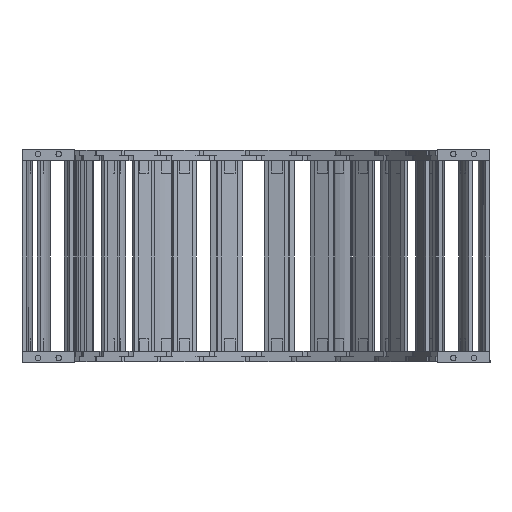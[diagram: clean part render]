
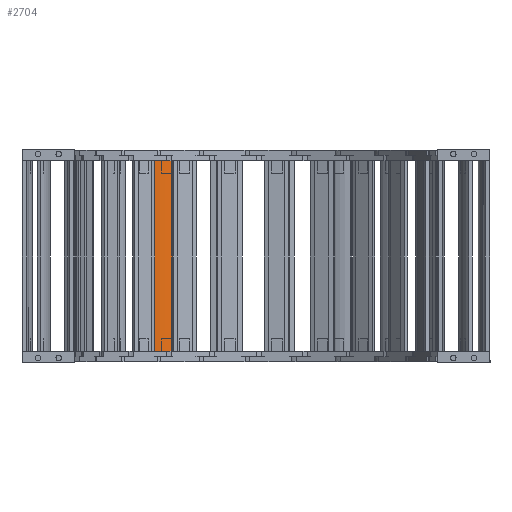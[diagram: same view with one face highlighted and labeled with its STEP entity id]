
A CAD part, left-side view. The second image highlights one B-rep face of the part: STEP entity #2704.
In plain terms, the highlighted cylindrical face has radius 52 mm (diameter 104 mm), a partial arc.
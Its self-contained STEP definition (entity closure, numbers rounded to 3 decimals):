
#2460=CARTESIAN_POINT('',(0.,45.5,37.5));
#2461=DIRECTION('',(0.,0.,-1.));
#2462=DIRECTION('',(0.346,-0.938,0.));
#2463=AXIS2_PLACEMENT_3D('',#2460,#2461,#2462);
#2503=DIRECTION('',(0.,0.,-1.));
#2504=VECTOR('',#2503,275.5);
#2505=CARTESIAN_POINT('',(18.,-3.285,37.5));
#2506=LINE('',#2505,#2504);
#2510=DIRECTION('',(0.,0.,1.));
#2511=VECTOR('',#2510,275.5);
#2512=CARTESIAN_POINT('',(-18.,-3.285,-238.));
#2513=LINE('',#2512,#2511);
#2538=CARTESIAN_POINT('',(0.,45.5,-238.));
#2539=DIRECTION('',(0.,0.,1.));
#2540=DIRECTION('',(-0.346,-0.938,0.));
#2541=AXIS2_PLACEMENT_3D('',#2538,#2539,#2540);
#2582=CARTESIAN_POINT('',(18.,-3.285,-238.));
#2584=VERTEX_POINT('',#2582);
#2585=CARTESIAN_POINT('',(-18.,-3.285,-238.));
#2586=VERTEX_POINT('',#2585);
#2593=CARTESIAN_POINT('',(18.,-3.285,37.5));
#2594=VERTEX_POINT('',#2593);
#2597=CARTESIAN_POINT('',(-18.,-3.285,37.5));
#2598=VERTEX_POINT('',#2597);
#2690=CARTESIAN_POINT('',(0.,45.5,-163.));
#2691=DIRECTION('',(0.,0.,1.));
#2692=DIRECTION('',(1.,0.,0.));
#2693=AXIS2_PLACEMENT_3D('',#2690,#2691,#2692);
#2694=CYLINDRICAL_SURFACE('',#2693,52.);
#2696=ORIENTED_EDGE('',*,*,#2695,.T.);
#2698=ORIENTED_EDGE('',*,*,#2697,.F.);
#2700=ORIENTED_EDGE('',*,*,#2699,.T.);
#2701=ORIENTED_EDGE('',*,*,#2665,.F.);
#2702=EDGE_LOOP('',(#2696,#2698,#2700,#2701));
#2703=FACE_OUTER_BOUND('',#2702,.F.);
#2704=ADVANCED_FACE('',(#2703),#2694,.T.);
#2464=CIRCLE('',#2463,52.);
#2542=CIRCLE('',#2541,52.);
#2665=EDGE_CURVE('',#2594,#2598,#2464,.T.);
#2695=EDGE_CURVE('',#2594,#2584,#2506,.T.);
#2697=EDGE_CURVE('',#2586,#2584,#2542,.T.);
#2699=EDGE_CURVE('',#2586,#2598,#2513,.T.);
